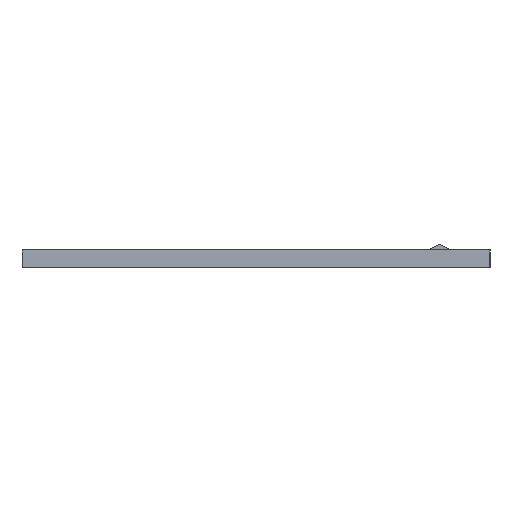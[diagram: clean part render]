
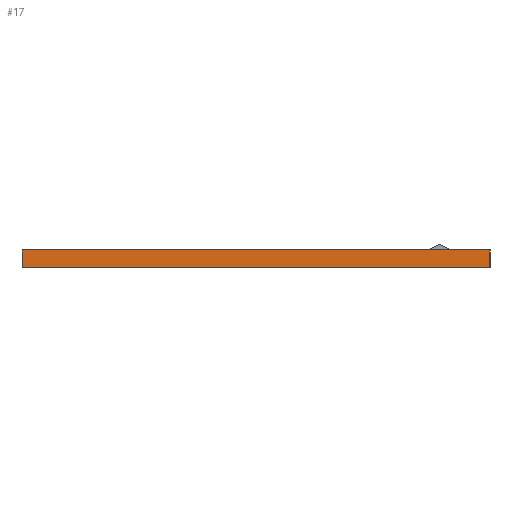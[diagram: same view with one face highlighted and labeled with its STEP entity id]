
A CAD part, left-side view. The second image highlights one B-rep face of the part: STEP entity #17.
In plain terms, the highlighted planar face has unit normal (-1, 0, 0).
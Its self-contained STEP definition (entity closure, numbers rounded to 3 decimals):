
#17 = ADVANCED_FACE('',(#18),#32,.F.);
#18 = FACE_BOUND('',#19,.F.);
#19 = EDGE_LOOP('',(#20,#55,#83,#111));
#20 = ORIENTED_EDGE('',*,*,#21,.F.);
#21 = EDGE_CURVE('',#22,#24,#26,.T.);
#22 = VERTEX_POINT('',#23);
#23 = CARTESIAN_POINT('',(-15.5,8.6,86.3));
#24 = VERTEX_POINT('',#25);
#25 = CARTESIAN_POINT('',(-15.5,-12.6,86.3));
#26 = SURFACE_CURVE('',#27,(#31,#43),.PCURVE_S1.);
#27 = LINE('',#28,#29);
#28 = CARTESIAN_POINT('',(-15.5,8.6,86.3));
#29 = VECTOR('',#30,1.);
#30 = DIRECTION('',(0.,-1.,0.));
#31 = PCURVE('',#32,#37);
#32 = PLANE('',#33);
#33 = AXIS2_PLACEMENT_3D('',#34,#35,#36);
#34 = CARTESIAN_POINT('',(-15.5,8.6,86.3));
#35 = DIRECTION('',(1.,0.,0.));
#36 = DIRECTION('',(0.,-1.,0.));
#37 = DEFINITIONAL_REPRESENTATION('',(#38),#42);
#38 = LINE('',#39,#40);
#39 = CARTESIAN_POINT('',(0.,0.));
#40 = VECTOR('',#41,1.);
#41 = DIRECTION('',(1.,0.));
#42 = ( GEOMETRIC_REPRESENTATION_CONTEXT(2) 
PARAMETRIC_REPRESENTATION_CONTEXT() REPRESENTATION_CONTEXT('2D SPACE',''
  ) );
#43 = PCURVE('',#44,#49);
#44 = PLANE('',#45);
#45 = AXIS2_PLACEMENT_3D('',#46,#47,#48);
#46 = CARTESIAN_POINT('',(-15.5,8.6,86.3));
#47 = DIRECTION('',(0.,0.,1.));
#48 = DIRECTION('',(0.,-1.,0.));
#49 = DEFINITIONAL_REPRESENTATION('',(#50),#54);
#50 = LINE('',#51,#52);
#51 = CARTESIAN_POINT('',(0.,0.));
#52 = VECTOR('',#53,1.);
#53 = DIRECTION('',(1.,0.));
#54 = ( GEOMETRIC_REPRESENTATION_CONTEXT(2) 
PARAMETRIC_REPRESENTATION_CONTEXT() REPRESENTATION_CONTEXT('2D SPACE',''
  ) );
#55 = ORIENTED_EDGE('',*,*,#56,.T.);
#56 = EDGE_CURVE('',#22,#57,#59,.T.);
#57 = VERTEX_POINT('',#58);
#58 = CARTESIAN_POINT('',(-15.5,8.6,87.1));
#59 = SURFACE_CURVE('',#60,(#64,#71),.PCURVE_S1.);
#60 = LINE('',#61,#62);
#61 = CARTESIAN_POINT('',(-15.5,8.6,86.3));
#62 = VECTOR('',#63,1.);
#63 = DIRECTION('',(0.,0.,1.));
#64 = PCURVE('',#32,#65);
#65 = DEFINITIONAL_REPRESENTATION('',(#66),#70);
#66 = LINE('',#67,#68);
#67 = CARTESIAN_POINT('',(0.,0.));
#68 = VECTOR('',#69,1.);
#69 = DIRECTION('',(0.,-1.));
#70 = ( GEOMETRIC_REPRESENTATION_CONTEXT(2) 
PARAMETRIC_REPRESENTATION_CONTEXT() REPRESENTATION_CONTEXT('2D SPACE',''
  ) );
#71 = PCURVE('',#72,#77);
#72 = PLANE('',#73);
#73 = AXIS2_PLACEMENT_3D('',#74,#75,#76);
#74 = CARTESIAN_POINT('',(-15.5,8.6,86.3));
#75 = DIRECTION('',(0.,-1.,0.));
#76 = DIRECTION('',(1.,0.,0.));
#77 = DEFINITIONAL_REPRESENTATION('',(#78),#82);
#78 = LINE('',#79,#80);
#79 = CARTESIAN_POINT('',(0.,0.));
#80 = VECTOR('',#81,1.);
#81 = DIRECTION('',(0.,1.));
#82 = ( GEOMETRIC_REPRESENTATION_CONTEXT(2) 
PARAMETRIC_REPRESENTATION_CONTEXT() REPRESENTATION_CONTEXT('2D SPACE',''
  ) );
#83 = ORIENTED_EDGE('',*,*,#84,.T.);
#84 = EDGE_CURVE('',#57,#85,#87,.T.);
#85 = VERTEX_POINT('',#86);
#86 = CARTESIAN_POINT('',(-15.5,-12.6,87.1));
#87 = SURFACE_CURVE('',#88,(#92,#99),.PCURVE_S1.);
#88 = LINE('',#89,#90);
#89 = CARTESIAN_POINT('',(-15.5,8.6,87.1));
#90 = VECTOR('',#91,1.);
#91 = DIRECTION('',(0.,-1.,0.));
#92 = PCURVE('',#32,#93);
#93 = DEFINITIONAL_REPRESENTATION('',(#94),#98);
#94 = LINE('',#95,#96);
#95 = CARTESIAN_POINT('',(0.,-0.8));
#96 = VECTOR('',#97,1.);
#97 = DIRECTION('',(1.,0.));
#98 = ( GEOMETRIC_REPRESENTATION_CONTEXT(2) 
PARAMETRIC_REPRESENTATION_CONTEXT() REPRESENTATION_CONTEXT('2D SPACE',''
  ) );
#99 = PCURVE('',#100,#105);
#100 = PLANE('',#101);
#101 = AXIS2_PLACEMENT_3D('',#102,#103,#104);
#102 = CARTESIAN_POINT('',(-15.5,8.6,87.1));
#103 = DIRECTION('',(0.,0.,1.));
#104 = DIRECTION('',(0.,-1.,0.));
#105 = DEFINITIONAL_REPRESENTATION('',(#106),#110);
#106 = LINE('',#107,#108);
#107 = CARTESIAN_POINT('',(0.,0.));
#108 = VECTOR('',#109,1.);
#109 = DIRECTION('',(1.,0.));
#110 = ( GEOMETRIC_REPRESENTATION_CONTEXT(2) 
PARAMETRIC_REPRESENTATION_CONTEXT() REPRESENTATION_CONTEXT('2D SPACE',''
  ) );
#111 = ORIENTED_EDGE('',*,*,#112,.F.);
#112 = EDGE_CURVE('',#24,#85,#113,.T.);
#113 = SURFACE_CURVE('',#114,(#118,#125),.PCURVE_S1.);
#114 = LINE('',#115,#116);
#115 = CARTESIAN_POINT('',(-15.5,-12.6,86.3));
#116 = VECTOR('',#117,1.);
#117 = DIRECTION('',(0.,0.,1.));
#118 = PCURVE('',#32,#119);
#119 = DEFINITIONAL_REPRESENTATION('',(#120),#124);
#120 = LINE('',#121,#122);
#121 = CARTESIAN_POINT('',(21.2,0.));
#122 = VECTOR('',#123,1.);
#123 = DIRECTION('',(0.,-1.));
#124 = ( GEOMETRIC_REPRESENTATION_CONTEXT(2) 
PARAMETRIC_REPRESENTATION_CONTEXT() REPRESENTATION_CONTEXT('2D SPACE',''
  ) );
#125 = PCURVE('',#126,#131);
#126 = PLANE('',#127);
#127 = AXIS2_PLACEMENT_3D('',#128,#129,#130);
#128 = CARTESIAN_POINT('',(-15.5,-12.6,86.3));
#129 = DIRECTION('',(0.,-1.,0.));
#130 = DIRECTION('',(1.,0.,0.));
#131 = DEFINITIONAL_REPRESENTATION('',(#132),#136);
#132 = LINE('',#133,#134);
#133 = CARTESIAN_POINT('',(0.,0.));
#134 = VECTOR('',#135,1.);
#135 = DIRECTION('',(0.,1.));
#136 = ( GEOMETRIC_REPRESENTATION_CONTEXT(2) 
PARAMETRIC_REPRESENTATION_CONTEXT() REPRESENTATION_CONTEXT('2D SPACE',''
  ) );
